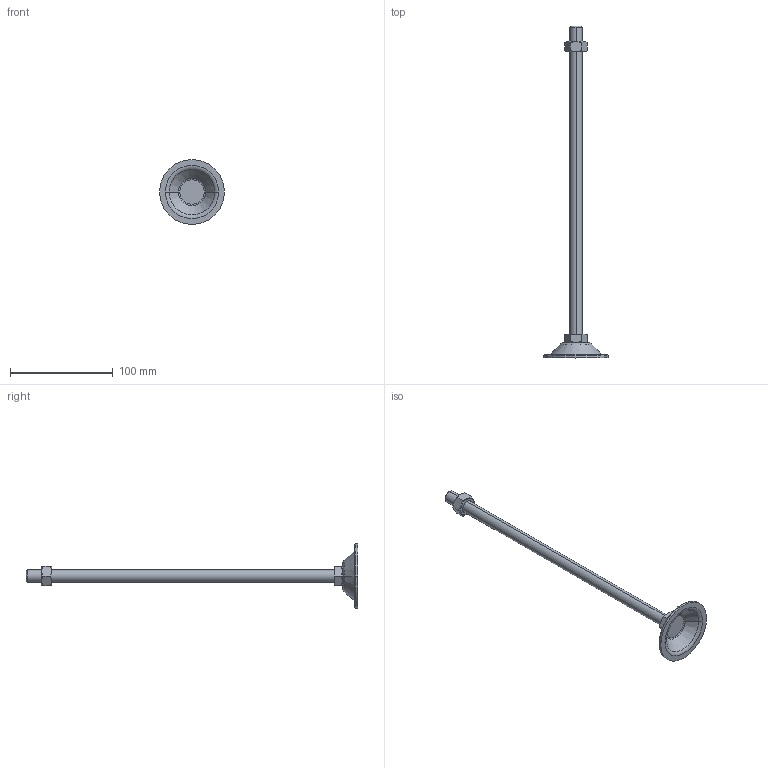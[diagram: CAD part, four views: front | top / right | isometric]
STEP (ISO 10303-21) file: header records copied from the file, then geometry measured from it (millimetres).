
FILE_DESCRIPTION (( 'STEP AP214' ), '1' );
FILE_NAME ('BL63-M12-300.step', '2021-01-06T05:38:26', ( '' ), ( '' ), 'SwSTEP 2.0', 'SolidWorks 2019', '' );
FILE_SCHEMA (( 'AUTOMOTIVE_DESIGN' ));
Length unit declared in the file: millimetre
Products named in the file (1): BL63-M12-300
Bounding box: 63 x 323 x 63 mm (x, y, z)
Volume: 49392.4 mm3; surface area: 21669 mm2
Topology: 3 solids, 3 shells, 53 faces, 110 edges, 66 vertices
Faces by surface type: plane 21, cone 16, torus 10, cylinder 6
Entity records: 1618 total; most frequent: CARTESIAN_POINT 428, DIRECTION 252, ORIENTED_EDGE 220, EDGE_CURVE 110, AXIS2_PLACEMENT_3D 106, VERTEX_POINT 66, EDGE_LOOP 58, FACE_OUTER_BOUND 53
